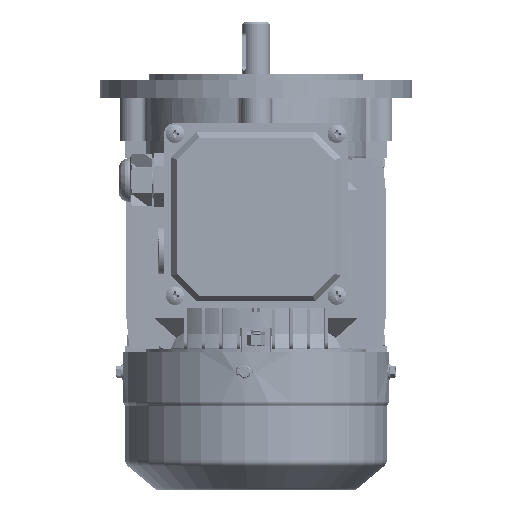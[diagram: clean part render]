
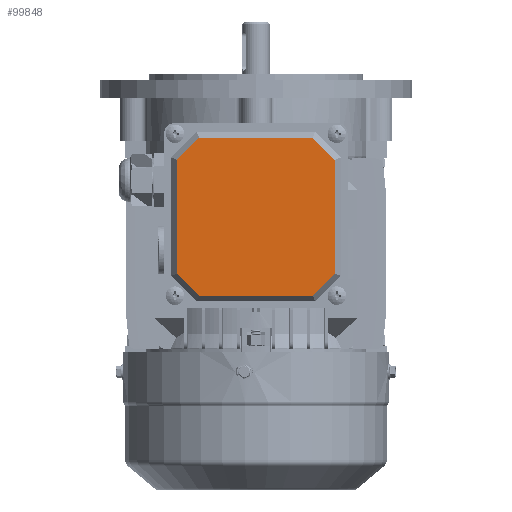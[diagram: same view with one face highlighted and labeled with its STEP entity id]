
A CAD part, left-side view. The second image highlights one B-rep face of the part: STEP entity #99848.
In plain terms, the highlighted planar face has unit normal (-1, 0, 0) as drawn and (0, 1, 0) by its records, which use the part's own axes.
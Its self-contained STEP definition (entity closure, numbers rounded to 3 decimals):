
#709 = VERTEX_POINT ( 'NONE', #11200 ) ;
#5626 = CARTESIAN_POINT ( 'NONE',  ( 0., 6., 40.5 ) ) ;
#7152 = PLANE ( 'NONE',  #59183 ) ;
#8739 = EDGE_LOOP ( 'NONE', ( #42658, #54685, #88361, #91384, #30030, #12321, #80252, #84768 ) ) ;
#8883 = CARTESIAN_POINT ( 'NONE',  ( -34.825, 6., -34.825 ) ) ;
#9035 = VECTOR ( 'NONE', #19872, 1000. ) ;
#11183 = VERTEX_POINT ( 'NONE', #132115 ) ;
#11200 = CARTESIAN_POINT ( 'NONE',  ( 40.5, 6., -29.15 ) ) ;
#12321 = ORIENTED_EDGE ( 'NONE', *, *, #128715, .T. ) ;
#13326 = VERTEX_POINT ( 'NONE', #16472 ) ;
#16472 = CARTESIAN_POINT ( 'NONE',  ( -40.5, 6., -29.15 ) ) ;
#17430 = DIRECTION ( 'NONE',  ( 0., 0., -1. ) ) ;
#19554 = EDGE_CURVE ( 'NONE', #709, #119387, #107844, .T. ) ;
#19662 = DIRECTION ( 'NONE',  ( -0.707, 0., -0.707 ) ) ;
#19872 = DIRECTION ( 'NONE',  ( 0., 0., -1. ) ) ;
#20019 = CARTESIAN_POINT ( 'NONE',  ( -29.15, 6., -40.5 ) ) ;
#24404 = CARTESIAN_POINT ( 'NONE',  ( 29.15, 6., 40.5 ) ) ;
#26825 = FACE_OUTER_BOUND ( 'NONE', #8739, .T. ) ;
#30030 = ORIENTED_EDGE ( 'NONE', *, *, #108331, .T. ) ;
#33119 = EDGE_CURVE ( 'NONE', #119387, #82812, #111359, .T. ) ;
#33320 = VERTEX_POINT ( 'NONE', #42450 ) ;
#36247 = LINE ( 'NONE', #50285, #9035 ) ;
#42450 = CARTESIAN_POINT ( 'NONE',  ( -40.5, 6., 29.15 ) ) ;
#42658 = ORIENTED_EDGE ( 'NONE', *, *, #126884, .T. ) ;
#44748 = VECTOR ( 'NONE', #95855, 1000. ) ;
#50031 = VECTOR ( 'NONE', #93639, 1000. ) ;
#50285 = CARTESIAN_POINT ( 'NONE',  ( 40.5, 6., 0. ) ) ;
#53051 = CARTESIAN_POINT ( 'NONE',  ( -34.825, 6., 34.825 ) ) ;
#54685 = ORIENTED_EDGE ( 'NONE', *, *, #116158, .T. ) ;
#59183 = AXIS2_PLACEMENT_3D ( 'NONE', #109101, #78596, #17430 ) ;
#60107 = VECTOR ( 'NONE', #110428, 1000. ) ;
#64251 = CARTESIAN_POINT ( 'NONE',  ( 40.5, 6., 29.15 ) ) ;
#78596 = DIRECTION ( 'NONE',  ( 0., -1., 0. ) ) ;
#80252 = ORIENTED_EDGE ( 'NONE', *, *, #85524, .T. ) ;
#80343 = DIRECTION ( 'NONE',  ( -0.707, 0., 0.707 ) ) ;
#82812 = VERTEX_POINT ( 'NONE', #20019 ) ;
#83364 = CARTESIAN_POINT ( 'NONE',  ( 29.15, 6., -40.5 ) ) ;
#83743 = VECTOR ( 'NONE', #19662, 1000. ) ;
#84768 = ORIENTED_EDGE ( 'NONE', *, *, #126596, .T. ) ;
#85524 = EDGE_CURVE ( 'NONE', #33320, #11183, #104363, .T. ) ;
#85541 = CARTESIAN_POINT ( 'NONE',  ( -40.5, 6., 0. ) ) ;
#86880 = VERTEX_POINT ( 'NONE', #64251 ) ;
#87315 = DIRECTION ( 'NONE',  ( 1., 0., 0. ) ) ;
#88361 = ORIENTED_EDGE ( 'NONE', *, *, #19554, .T. ) ;
#91384 = ORIENTED_EDGE ( 'NONE', *, *, #33119, .T. ) ;
#91710 = CARTESIAN_POINT ( 'NONE',  ( 34.825, 6., 34.825 ) ) ;
#93588 = VECTOR ( 'NONE', #102033, 1000. ) ;
#93639 = DIRECTION ( 'NONE',  ( 0.707, 0., 0.707 ) ) ;
#95266 = VECTOR ( 'NONE', #87315, 1000. ) ;
#95855 = DIRECTION ( 'NONE',  ( 0., 0., 1. ) ) ;
#99429 = LINE ( 'NONE', #8883, #126710 ) ;
#99848 = ADVANCED_FACE ( 'NONE', ( #26825 ), #7152, .F. ) ;
#100098 = CARTESIAN_POINT ( 'NONE',  ( 0., 6., -40.5 ) ) ;
#102033 = DIRECTION ( 'NONE',  ( 0.707, 0., -0.707 ) ) ;
#104363 = LINE ( 'NONE', #53051, #50031 ) ;
#107844 = LINE ( 'NONE', #121570, #83743 ) ;
#108331 = EDGE_CURVE ( 'NONE', #82812, #13326, #99429, .T. ) ;
#109101 = CARTESIAN_POINT ( 'NONE',  ( 0., 6., 0. ) ) ;
#110428 = DIRECTION ( 'NONE',  ( -1., 0., 0. ) ) ;
#111359 = LINE ( 'NONE', #100098, #60107 ) ;
#116158 = EDGE_CURVE ( 'NONE', #86880, #709, #36247, .T. ) ;
#118000 = VERTEX_POINT ( 'NONE', #24404 ) ;
#119387 = VERTEX_POINT ( 'NONE', #83364 ) ;
#120844 = LINE ( 'NONE', #91710, #93588 ) ;
#121570 = CARTESIAN_POINT ( 'NONE',  ( 34.825, 6., -34.825 ) ) ;
#122487 = LINE ( 'NONE', #5626, #95266 ) ;
#126287 = LINE ( 'NONE', #85541, #44748 ) ;
#126596 = EDGE_CURVE ( 'NONE', #11183, #118000, #122487, .T. ) ;
#126710 = VECTOR ( 'NONE', #80343, 1000. ) ;
#126884 = EDGE_CURVE ( 'NONE', #118000, #86880, #120844, .T. ) ;
#128715 = EDGE_CURVE ( 'NONE', #13326, #33320, #126287, .T. ) ;
#132115 = CARTESIAN_POINT ( 'NONE',  ( -29.15, 6., 40.5 ) ) ;
